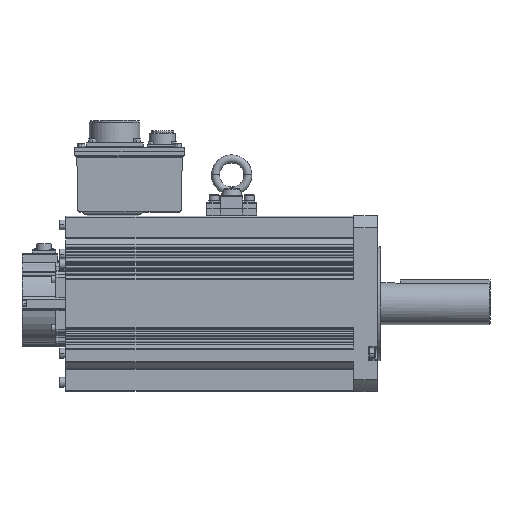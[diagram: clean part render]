
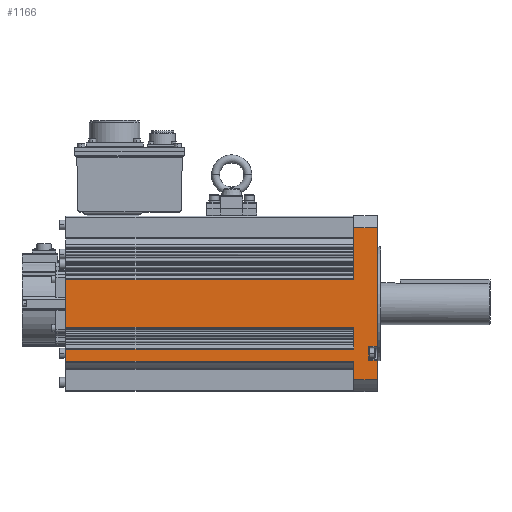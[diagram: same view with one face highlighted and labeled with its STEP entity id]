
A CAD part, top view. The second image highlights one B-rep face of the part: STEP entity #1166.
In plain terms, the highlighted planar face has unit normal (0, 0, 1).
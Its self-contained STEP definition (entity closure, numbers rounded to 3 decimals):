
#1166 = ADVANCED_FACE( '', ( #3477 ), #3478, .T. );
#3477 = FACE_OUTER_BOUND( '', #5789, .T. );
#3478 = PLANE( '', #5790 );
#5789 = EDGE_LOOP( '', ( #14630, #14631, #14632, #14633, #14634, #14635, #14636, #14637, #14638, #14639, #14640, #14641, #14642, #14643, #14644, #14645, #14646, #14647, #14648, #14649, #14650, #14651 ) );
#5790 = AXIS2_PLACEMENT_3D( '', #14652, #14653, #14654 );
#14630 = ORIENTED_EDGE( '', *, *, #16769, .T. );
#14631 = ORIENTED_EDGE( '', *, *, #16799, .F. );
#14632 = ORIENTED_EDGE( '', *, *, #17462, .T. );
#14633 = ORIENTED_EDGE( '', *, *, #17442, .T. );
#14634 = ORIENTED_EDGE( '', *, *, #17444, .T. );
#14635 = ORIENTED_EDGE( '', *, *, #16911, .T. );
#14636 = ORIENTED_EDGE( '', *, *, #17445, .T. );
#14637 = ORIENTED_EDGE( '', *, *, #17446, .T. );
#14638 = ORIENTED_EDGE( '', *, *, #16992, .T. );
#14639 = ORIENTED_EDGE( '', *, *, #17421, .T. );
#14640 = ORIENTED_EDGE( '', *, *, #16997, .F. );
#14641 = ORIENTED_EDGE( '', *, *, #17447, .T. );
#14642 = ORIENTED_EDGE( '', *, *, #17448, .T. );
#14643 = ORIENTED_EDGE( '', *, *, #17449, .T. );
#14644 = ORIENTED_EDGE( '', *, *, #17046, .T. );
#14645 = ORIENTED_EDGE( '', *, *, #17420, .T. );
#14646 = ORIENTED_EDGE( '', *, *, #17051, .F. );
#14647 = ORIENTED_EDGE( '', *, *, #17452, .T. );
#14648 = ORIENTED_EDGE( '', *, *, #17457, .F. );
#14649 = ORIENTED_EDGE( '', *, *, #16775, .F. );
#14650 = ORIENTED_EDGE( '', *, *, #16755, .F. );
#14651 = ORIENTED_EDGE( '', *, *, #16770, .T. );
#14652 = CARTESIAN_POINT( '', ( 0., 76.343, 88. ) );
#14653 = DIRECTION( '', ( 0., 0., 1. ) );
#14654 = DIRECTION( '', ( 0., 1., 0. ) );
#16755 = EDGE_CURVE( '', #20935, #20938, #20939, .T. );
#16769 = EDGE_CURVE( '', #20958, #20960, #20962, .T. );
#16770 = EDGE_CURVE( '', #20935, #20958, #20963, .T. );
#16775 = EDGE_CURVE( '', #20938, #20968, #20969, .T. );
#16799 = EDGE_CURVE( '', #21012, #20960, #21014, .T. );
#16911 = EDGE_CURVE( '', #21175, #21176, #21177, .T. );
#16992 = EDGE_CURVE( '', #21314, #21312, #21315, .T. );
#16997 = EDGE_CURVE( '', #21322, #21317, #21324, .T. );
#17046 = EDGE_CURVE( '', #21406, #21404, #21407, .T. );
#17051 = EDGE_CURVE( '', #21414, #21409, #21416, .T. );
#17420 = EDGE_CURVE( '', #21404, #21409, #22031, .T. );
#17421 = EDGE_CURVE( '', #21312, #21317, #22032, .T. );
#17442 = EDGE_CURVE( '', #22056, #21994, #22057, .T. );
#17444 = EDGE_CURVE( '', #21994, #21175, #22059, .T. );
#17445 = EDGE_CURVE( '', #21176, #21224, #22060, .T. );
#17446 = EDGE_CURVE( '', #21224, #21314, #22061, .T. );
#17447 = EDGE_CURVE( '', #21322, #21354, #22062, .T. );
#17448 = EDGE_CURVE( '', #21354, #21386, #22063, .T. );
#17449 = EDGE_CURVE( '', #21386, #21406, #22064, .T. );
#17452 = EDGE_CURVE( '', #21414, #22067, #22069, .T. );
#17457 = EDGE_CURVE( '', #20968, #22067, #22074, .T. );
#17462 = EDGE_CURVE( '', #21012, #22056, #22079, .T. );
#20935 = VERTEX_POINT( '', #27521 );
#20938 = VERTEX_POINT( '', #27524 );
#20939 = LINE( '', #27525, #27526 );
#20958 = VERTEX_POINT( '', #27553 );
#20960 = VERTEX_POINT( '', #27555 );
#20962 = LINE( '', #27557, #27558 );
#20963 = LINE( '', #27559, #27560 );
#20968 = VERTEX_POINT( '', #27565 );
#20969 = LINE( '', #27566, #27567 );
#21012 = VERTEX_POINT( '', #27620 );
#21014 = LINE( '', #27622, #27623 );
#21175 = VERTEX_POINT( '', #27992 );
#21176 = VERTEX_POINT( '', #27993 );
#21177 = LINE( '', #27994, #27995 );
#21224 = VERTEX_POINT( '', #28056 );
#21312 = VERTEX_POINT( '', #28173 );
#21314 = VERTEX_POINT( '', #28175 );
#21315 = LINE( '', #28176, #28177 );
#21317 = VERTEX_POINT( '', #28179 );
#21322 = VERTEX_POINT( '', #28185 );
#21324 = LINE( '', #28187, #28188 );
#21354 = VERTEX_POINT( '', #28228 );
#21386 = VERTEX_POINT( '', #28270 );
#21404 = VERTEX_POINT( '', #28295 );
#21406 = VERTEX_POINT( '', #28297 );
#21407 = LINE( '', #28298, #28299 );
#21409 = VERTEX_POINT( '', #28301 );
#21414 = VERTEX_POINT( '', #28307 );
#21416 = LINE( '', #28309, #28310 );
#21994 = VERTEX_POINT( '', #29074 );
#22031 = LINE( '', #29126, #29127 );
#22032 = LINE( '', #29128, #29129 );
#22056 = VERTEX_POINT( '', #29168 );
#22057 = LINE( '', #29169, #29170 );
#22059 = LINE( '', #29172, #29173 );
#22060 = LINE( '', #29174, #29175 );
#22061 = LINE( '', #29176, #29177 );
#22062 = LINE( '', #29178, #29179 );
#22063 = LINE( '', #29180, #29181 );
#22064 = LINE( '', #29182, #29183 );
#22067 = VERTEX_POINT( '', #29187 );
#22069 = LINE( '', #29189, #29190 );
#22074 = LINE( '', #29198, #29199 );
#22079 = LINE( '', #29208, #29209 );
#27521 = CARTESIAN_POINT( '', ( -9., -57., 88. ) );
#27524 = CARTESIAN_POINT( '', ( 0., -57., 88. ) );
#27525 = CARTESIAN_POINT( '', ( -4.5, -57., 88. ) );
#27526 = VECTOR( '', #32599, 1. );
#27553 = CARTESIAN_POINT( '', ( -9., -43., 88. ) );
#27555 = CARTESIAN_POINT( '', ( 0., -43., 88. ) );
#27557 = CARTESIAN_POINT( '', ( -4.5, -43., 88. ) );
#27558 = VECTOR( '', #32623, 1. );
#27559 = CARTESIAN_POINT( '', ( -9., 38.171, 88. ) );
#27560 = VECTOR( '', #32624, 1. );
#27565 = CARTESIAN_POINT( '', ( 0., -76.343, 88. ) );
#27566 = CARTESIAN_POINT( '', ( 0., 76.343, 88. ) );
#27567 = VECTOR( '', #32637, 1. );
#27620 = CARTESIAN_POINT( '', ( 0., 76.343, 88. ) );
#27622 = CARTESIAN_POINT( '', ( 0., 76.343, 88. ) );
#27623 = VECTOR( '', #32687, 1. );
#27992 = CARTESIAN_POINT( '', ( -24., 50.879, 88. ) );
#27993 = CARTESIAN_POINT( '', ( -24., 49.118, 88. ) );
#27994 = CARTESIAN_POINT( '', ( -24., 76.343, 88. ) );
#27995 = VECTOR( '', #32845, 1. );
#28056 = CARTESIAN_POINT( '', ( -24., 43.497, 88. ) );
#28173 = CARTESIAN_POINT( '', ( -313., 23.999, 88. ) );
#28175 = CARTESIAN_POINT( '', ( -24., 23.999, 88. ) );
#28176 = CARTESIAN_POINT( '', ( -24., 23.999, 88. ) );
#28177 = VECTOR( '', #33000, 1. );
#28179 = CARTESIAN_POINT( '', ( -313., -24., 88. ) );
#28185 = CARTESIAN_POINT( '', ( -24., -24., 88. ) );
#28187 = CARTESIAN_POINT( '', ( -24., -24., 88. ) );
#28188 = VECTOR( '', #33011, 1. );
#28228 = CARTESIAN_POINT( '', ( -24., -31., 88. ) );
#28270 = CARTESIAN_POINT( '', ( -24., -37.5, 88. ) );
#28295 = CARTESIAN_POINT( '', ( -313., -45.606, 88. ) );
#28297 = CARTESIAN_POINT( '', ( -24., -45.606, 88. ) );
#28298 = CARTESIAN_POINT( '', ( -24., -45.606, 88. ) );
#28299 = VECTOR( '', #33102, 1. );
#28301 = CARTESIAN_POINT( '', ( -313., -58., 88. ) );
#28307 = CARTESIAN_POINT( '', ( -24., -58., 88. ) );
#28309 = CARTESIAN_POINT( '', ( -24., -58., 88. ) );
#28310 = VECTOR( '', #33113, 1. );
#29074 = CARTESIAN_POINT( '', ( -24., 57.759, 88. ) );
#29126 = CARTESIAN_POINT( '', ( -313., -45.606, 88. ) );
#29127 = VECTOR( '', #33816, 1. );
#29128 = CARTESIAN_POINT( '', ( -313., 23.999, 88. ) );
#29129 = VECTOR( '', #33817, 1. );
#29168 = CARTESIAN_POINT( '', ( -24., 76.343, 88. ) );
#29169 = CARTESIAN_POINT( '', ( -24., 76.343, 88. ) );
#29170 = VECTOR( '', #33848, 1. );
#29172 = CARTESIAN_POINT( '', ( -24., 76.343, 88. ) );
#29173 = VECTOR( '', #33852, 1. );
#29174 = CARTESIAN_POINT( '', ( -24., 76.343, 88. ) );
#29175 = VECTOR( '', #33853, 1. );
#29176 = CARTESIAN_POINT( '', ( -24., 76.343, 88. ) );
#29177 = VECTOR( '', #33854, 1. );
#29178 = CARTESIAN_POINT( '', ( -24., 76.343, 88. ) );
#29179 = VECTOR( '', #33855, 1. );
#29180 = CARTESIAN_POINT( '', ( -24., 76.343, 88. ) );
#29181 = VECTOR( '', #33856, 1. );
#29182 = CARTESIAN_POINT( '', ( -24., 76.343, 88. ) );
#29183 = VECTOR( '', #33857, 1. );
#29187 = CARTESIAN_POINT( '', ( -24., -76.343, 88. ) );
#29189 = CARTESIAN_POINT( '', ( -24., 76.343, 88. ) );
#29190 = VECTOR( '', #33862, 1. );
#29198 = CARTESIAN_POINT( '', ( 0., -76.343, 88. ) );
#29199 = VECTOR( '', #33869, 1. );
#29208 = CARTESIAN_POINT( '', ( 0., 76.343, 88. ) );
#29209 = VECTOR( '', #33874, 1. );
#32599 = DIRECTION( '', ( 1., 0., 0. ) );
#32623 = DIRECTION( '', ( 1., 0., 0. ) );
#32624 = DIRECTION( '', ( 0., 1., 0. ) );
#32637 = DIRECTION( '', ( 0., -1., 0. ) );
#32687 = DIRECTION( '', ( 0., -1., 0. ) );
#32845 = DIRECTION( '', ( 0., -1., 0. ) );
#33000 = DIRECTION( '', ( -1., 0., 0. ) );
#33011 = DIRECTION( '', ( -1., 0., 0. ) );
#33102 = DIRECTION( '', ( -1., 0., 0. ) );
#33113 = DIRECTION( '', ( -1., 0., 0. ) );
#33816 = DIRECTION( '', ( 0., -1., 0. ) );
#33817 = DIRECTION( '', ( 0., -1., 0. ) );
#33848 = DIRECTION( '', ( 0., -1., 0. ) );
#33852 = DIRECTION( '', ( 0., -1., 0. ) );
#33853 = DIRECTION( '', ( 0., -1., 0. ) );
#33854 = DIRECTION( '', ( 0., -1., 0. ) );
#33855 = DIRECTION( '', ( 0., -1., 0. ) );
#33856 = DIRECTION( '', ( 0., -1., 0. ) );
#33857 = DIRECTION( '', ( 0., -1., 0. ) );
#33862 = DIRECTION( '', ( 0., -1., 0. ) );
#33869 = DIRECTION( '', ( -1., 0., 0. ) );
#33874 = DIRECTION( '', ( -1., 0., 0. ) );
